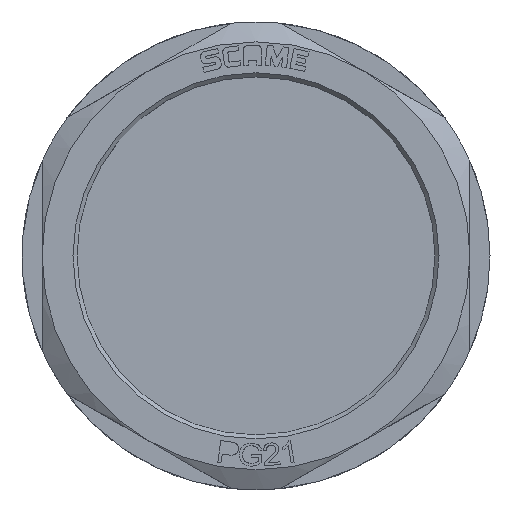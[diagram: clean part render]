
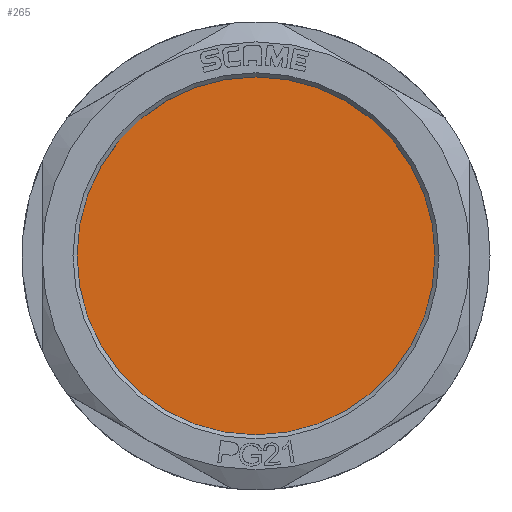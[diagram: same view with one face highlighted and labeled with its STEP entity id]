
A CAD part, top view. The second image highlights one B-rep face of the part: STEP entity #265.
In plain terms, the highlighted planar face has unit normal (0, 0, -1).
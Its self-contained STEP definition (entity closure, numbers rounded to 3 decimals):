
#139=CIRCLE('',#2182,17.5);
#191=PLANE('',#2184);
#265=ADVANCED_FACE('',(#349),#191,.T.);
#349=FACE_OUTER_BOUND('',#438,.T.);
#438=EDGE_LOOP('',(#1260));
#1260=ORIENTED_EDGE('',*,*,#1915,.T.);
#1588=VERTEX_POINT('',#3592);
#1915=EDGE_CURVE('',#1588,#1588,#139,.T.);
#2182=AXIS2_PLACEMENT_3D('',#3591,#2568,#2569);
#2184=AXIS2_PLACEMENT_3D('',#3600,#2578,#2579);
#2568=DIRECTION('',(0.,0.,-1.));
#2569=DIRECTION('',(1.,0.,0.));
#2578=DIRECTION('',(0.,0.,-1.));
#2579=DIRECTION('',(-1.,0.,0.));
#3591=CARTESIAN_POINT('',(0.,0.,-7.));
#3592=CARTESIAN_POINT('',(17.5,0.,-7.));
#3600=CARTESIAN_POINT('',(0.,0.,-7.));
